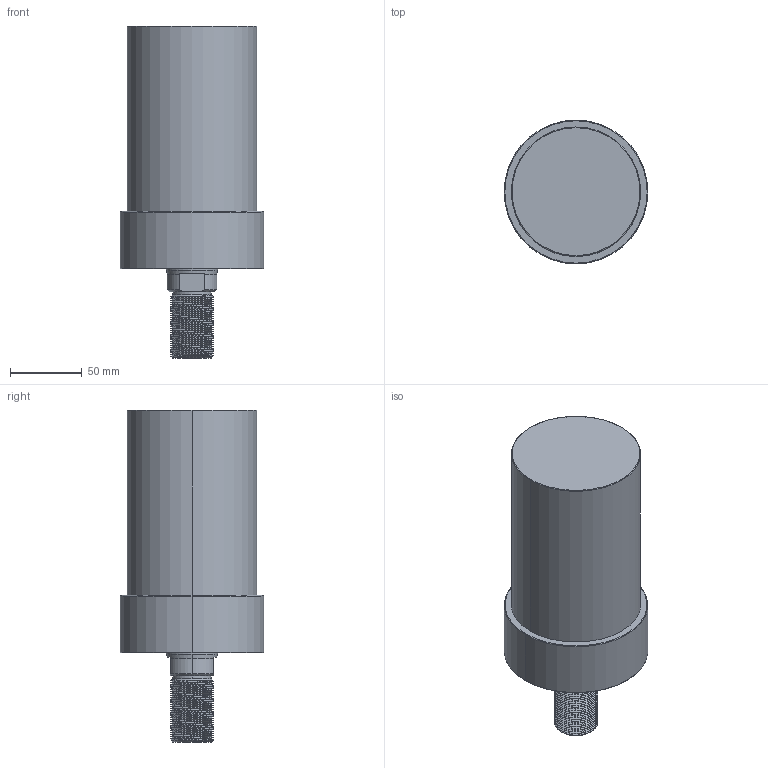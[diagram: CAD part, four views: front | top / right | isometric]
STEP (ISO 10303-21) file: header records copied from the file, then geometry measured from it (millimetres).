
FILE_DESCRIPTION (( 'STEP AP203' ), '1' );
FILE_NAME ('CLLU-090GT-085.STEP', '2020-01-15T01:23:38', ( '' ), ( '' ), 'SwSTEP 2.0', 'SolidWorks 2015', '' );
FILE_SCHEMA (( 'CONFIG_CONTROL_DESIGN' ));
Length unit declared in the file: millimetre
Products named in the file (1): CLLU-090GT-085
Bounding box: 100 x 100 x 231 mm (x, y, z)
Volume: 1172557.8 mm3; surface area: 76779.4 mm2
Topology: 1 solids, 1 shells, 123 faces, 321 edges, 201 vertices
Faces by surface type: cylinder 79, cone 25, plane 11, torus 6, bspline 2
Entity records: 7158 total; most frequent: CARTESIAN_POINT 4418, ORIENTED_EDGE 626, DIRECTION 505, EDGE_CURVE 313, VERTEX_POINT 201, AXIS2_PLACEMENT_3D 199, EDGE_LOOP 132, FACE_OUTER_BOUND 123
